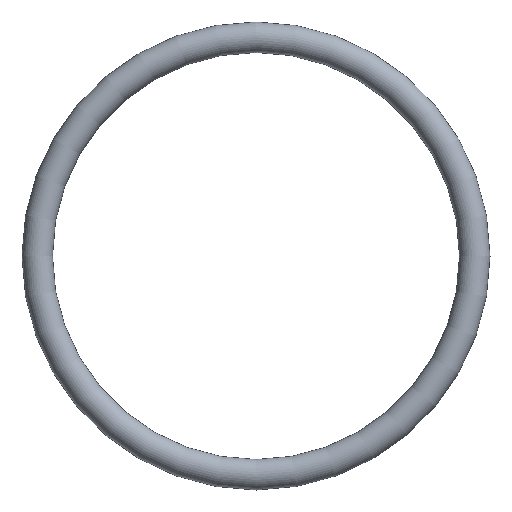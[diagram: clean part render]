
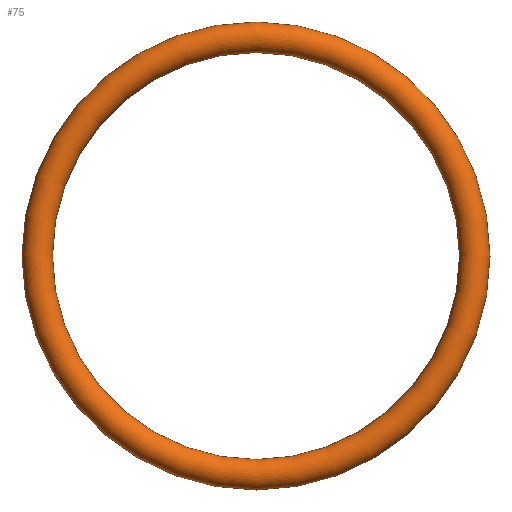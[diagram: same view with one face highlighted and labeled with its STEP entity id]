
A CAD part, front view. The second image highlights one B-rep face of the part: STEP entity #75.
In plain terms, the highlighted toroidal (fillet/blend) face has major radius 21.5 mm and minor radius 1.5 mm.
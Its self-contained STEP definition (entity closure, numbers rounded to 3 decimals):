
#75 = ADVANCED_FACE( '', ( #77 ), #78, .T. );
#77 = FACE_BOUND( '', #79, .T. );
#78 = TOROIDAL_SURFACE( '', #80, 21.5, 1.5 );
#79 = VERTEX_LOOP( '', #81 );
#80 = AXIS2_PLACEMENT_3D( '', #82, #83, #84 );
#81 = VERTEX_POINT( '', #85 );
#82 = CARTESIAN_POINT( '', ( 0., 0., 0. ) );
#83 = DIRECTION( '', ( 0., -1., 0. ) );
#84 = DIRECTION( '', ( 0., 0., -1. ) );
#85 = CARTESIAN_POINT( '', ( 0., 0., -23. ) );
